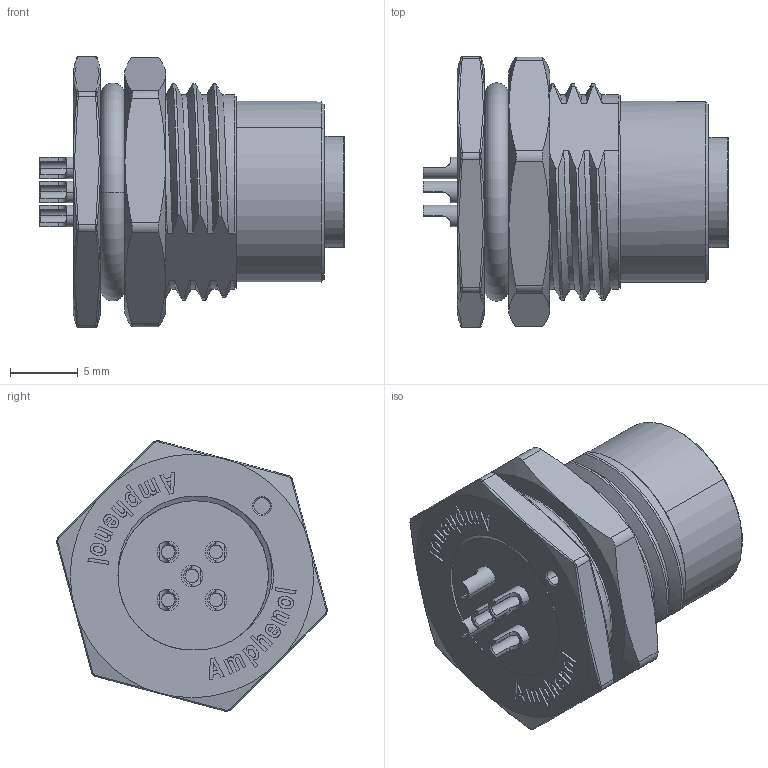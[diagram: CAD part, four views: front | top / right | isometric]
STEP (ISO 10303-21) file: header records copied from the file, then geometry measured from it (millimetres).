
FILE_DESCRIPTION((''),'2;1');
FILE_NAME('M12A-05PFFS-SF8002_SW0001','2015-09-16T',('KS6143'),(''),'PRO/ENGINEER BY PARAMETRIC TECHNOLOGY CORPORATION, 2013050','PRO/ENGINEER BY PARAMETRIC TECHNOLOGY CORPORATION, 2013050','');
FILE_SCHEMA(('CONFIG_CONTROL_DESIGN'));
Products named in the file (1): M12A-05PFFS-SF8002_SW0001
Bounding box: 22.5 x 19.96 x 19.96 mm (x, y, z)
Volume: 3165.2 mm3; surface area: 3614.9 mm2
Topology: 1 solids, 1 shells, 733 faces, 1932 edges, 1255 vertices
Faces by surface type: plane 263, extrusion 144, cylinder 143, bspline 96, cone 64, torus 21, sphere 2
Entity records: 46359 total; most frequent: CARTESIAN_POINT 24100, ORIENTED_EDGE 3864, DIRECTION 2694, EDGE_CURVE 1932, VERTEX_POINT 1255, VECTOR 1052, LINE 908, PRESENTATION_STYLE_ASSIGNMENT 860
